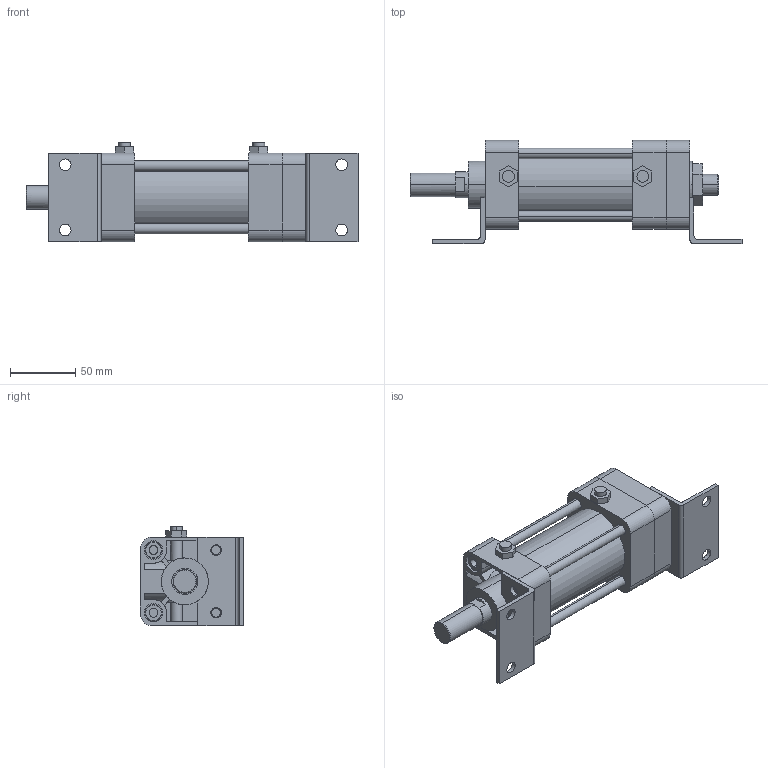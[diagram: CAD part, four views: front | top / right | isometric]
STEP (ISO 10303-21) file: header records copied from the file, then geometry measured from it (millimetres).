
FILE_DESCRIPTION (( 'STEP AP203' ), '1' );
FILE_NAME ('KGA2-50#-50-L.STEP', '2016-04-14T07:20:30', ( '' ), ( '' ), 'SwSTEP 2.0', 'SolidWorks 2014', '' );
FILE_SCHEMA (( 'CONFIG_CONTROL_DESIGN' ));
Length unit declared in the file: millimetre
Products named in the file (8): KGA2-50-After; KGLH2-50-50; KGA2-50#-50-L; K-50-L; KG2-50-After
Assembly tree (18 placements, depth 2):
  KGA2-50#-50-L
    KG2-50-After
    KGLH2-50-50
    (unnamed)
    (unnamed)  x4
    (unnamed)  x8
    K-50-L  x2
    KGA2-50-After
Bounding box: 254.5 x 79 x 76.3 mm (x, y, z)
Volume: 552301.6 mm3; surface area: 136190.8 mm2
Topology: 18 solids, 22 shells, 404 faces, 954 edges, 612 vertices
Faces by surface type: plane 174, cylinder 164, torus 38, cone 28
Entity records: 10146 total; most frequent: CARTESIAN_POINT 1909, DIRECTION 1552, ORIENTED_EDGE 1420, EDGE_CURVE 710, AXIS2_PLACEMENT_3D 581, VERTEX_POINT 466, VECTOR 390, LINE 390
